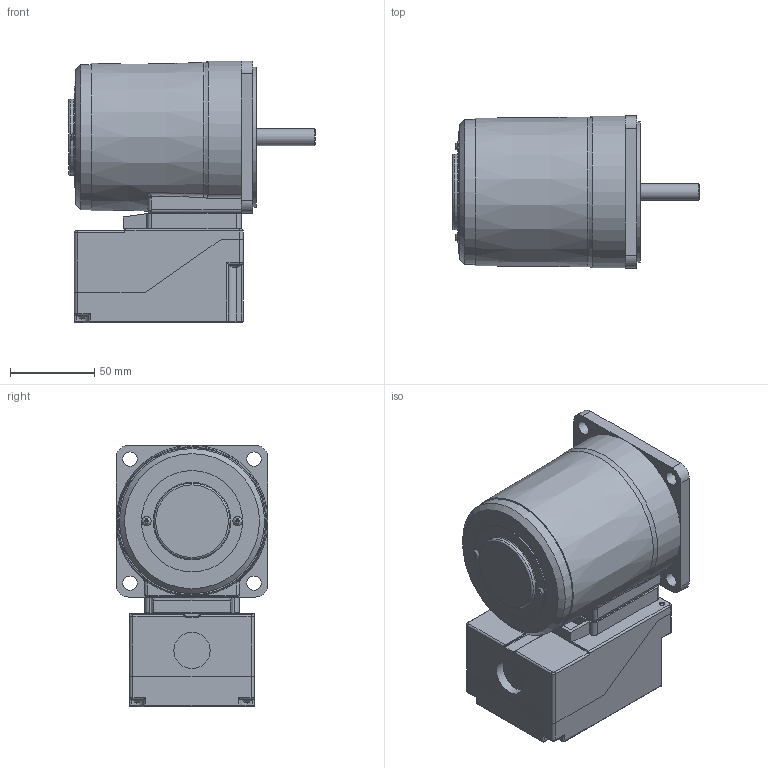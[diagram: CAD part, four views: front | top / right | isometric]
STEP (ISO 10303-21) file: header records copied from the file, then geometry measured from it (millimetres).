
FILE_DESCRIPTION(/* description */ (''),/* implementation_level */ '2;1');
FILE_NAME(/* name */ 'E:\도면작업\2016\0704) 미주향 SG 도면\3D MOTOR\TERMINAL BOX TYPE\REVERSIBLE TERMINAL BOX\SG9R40S_-T2.stp',/* time_stamp */ '2017-01-24T11:33:30+09:00',/* author */ ('jy-jung'),/* organization */ (''),/* preprocessor_version */ 'ST-DEVELOPER v15.6',/* originating_system */ 'Autodesk Inventor 2015',/* authorisation */ '');
FILE_SCHEMA (('AUTOMOTIVE_DESIGN { 1 0 10303 214 3 1 1 }'));
Length unit declared in the file: millimetre
Products named in the file (1): 부품1
Bounding box: 146.3 x 90 x 155 mm (x, y, z)
Volume: 792985 mm3; surface area: 134490.8 mm2
Topology: 1 solids, 8 shells, 899 faces, 2368 edges, 1512 vertices
Faces by surface type: plane 476, cylinder 300, bspline 53, torus 38, cone 20, sphere 12
Full cylindrical faces by diameter (mm): 2.5 x4, 3 x6, 3.2 x3, 3.4 x1, 3.5 x2, 4.2 x1, 4.5 x8, 5.5 x8, 5.6 x2, 6.9 x4, 8.5 x4, 10 x1, 21.5 x1, 40 x1, 43 x1, 45 x1, 60 x1, 83 x1, 86 x1
Entity records: 29864 total; most frequent: CARTESIAN_POINT 7180, DIRECTION 4486, ORIENTED_EDGE 4468, EDGE_CURVE 2234, AXIS2_PLACEMENT_3D 1583, VERTEX_POINT 1493, LINE 1320, VECTOR 1320
